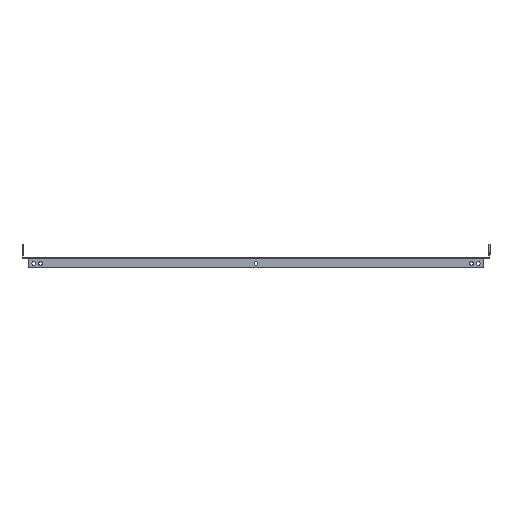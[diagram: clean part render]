
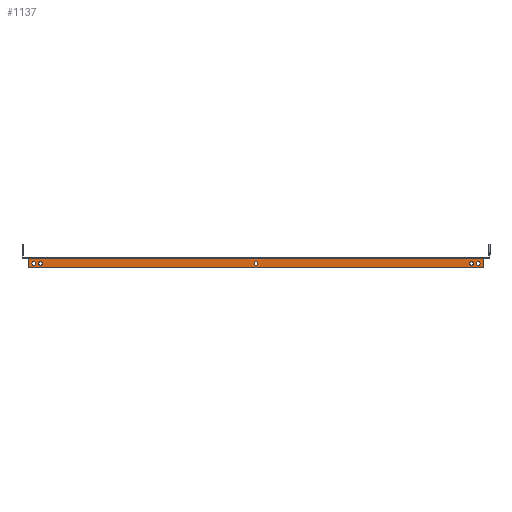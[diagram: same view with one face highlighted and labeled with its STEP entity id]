
A CAD part, left-side view. The second image highlights one B-rep face of the part: STEP entity #1137.
In plain terms, the highlighted planar face has unit normal (-1, 0, 0).
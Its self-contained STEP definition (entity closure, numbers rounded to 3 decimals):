
#34 = ORIENTED_EDGE ( 'NONE', *, *, #3715, .F. ) ;
#35 = ORIENTED_EDGE ( 'NONE', *, *, #1389, .F. ) ;
#40 = ORIENTED_EDGE ( 'NONE', *, *, #1062, .T. ) ;
#51 = DIRECTION ( 'NONE',  ( 0., 0., 1. ) ) ;
#54 = ORIENTED_EDGE ( 'NONE', *, *, #1101, .T. ) ;
#60 = LINE ( 'NONE', #4149, #598 ) ;
#66 = VERTEX_POINT ( 'NONE', #1205 ) ;
#67 = ORIENTED_EDGE ( 'NONE', *, *, #2097, .F. ) ;
#71 = DIRECTION ( 'NONE',  ( -1., 0., 0. ) ) ;
#90 = CARTESIAN_POINT ( 'NONE',  ( -250., 0., -6. ) ) ;
#152 = AXIS2_PLACEMENT_3D ( 'NONE', #686, #2749, #3035 ) ;
#207 = ORIENTED_EDGE ( 'NONE', *, *, #3270, .F. ) ;
#358 = CIRCLE ( 'NONE', #3547, 3.5 ) ;
#408 = EDGE_CURVE ( 'NONE', #2682, #2429, #465, .T. ) ;
#436 = ORIENTED_EDGE ( 'NONE', *, *, #2328, .F. ) ;
#455 = CARTESIAN_POINT ( 'NONE',  ( -250., -412.5, -9.5 ) ) ;
#465 = LINE ( 'NONE', #4178, #4123 ) ;
#499 = EDGE_CURVE ( 'NONE', #2682, #1413, #789, .T. ) ;
#502 = EDGE_LOOP ( 'NONE', ( #35, #814 ) ) ;
#503 = VERTEX_POINT ( 'NONE', #1825 ) ;
#511 = CIRCLE ( 'NONE', #1168, 3.5 ) ;
#555 = EDGE_CURVE ( 'NONE', #4227, #1413, #1217, .T. ) ;
#598 = VECTOR ( 'NONE', #3191, 1000. ) ;
#686 = CARTESIAN_POINT ( 'NONE',  ( -250., -412.5, -9.5 ) ) ;
#689 = VERTEX_POINT ( 'NONE', #3666 ) ;
#700 = ORIENTED_EDGE ( 'NONE', *, *, #499, .T. ) ;
#731 = CARTESIAN_POINT ( 'NONE',  ( -250., -419.5, -17. ) ) ;
#789 = CIRCLE ( 'NONE', #4404, 3. ) ;
#814 = ORIENTED_EDGE ( 'NONE', *, *, #2819, .F. ) ;
#858 = DIRECTION ( 'NONE',  ( 1., 0., 0. ) ) ;
#868 = DIRECTION ( 'NONE',  ( 0., 0., 1. ) ) ;
#883 = FACE_OUTER_BOUND ( 'NONE', #3235, .T. ) ;
#898 = DIRECTION ( 'NONE',  ( -1., 0., 0. ) ) ;
#909 = CARTESIAN_POINT ( 'NONE',  ( -250., 422.5, -0.6 ) ) ;
#933 = CARTESIAN_POINT ( 'NONE',  ( -250., 419.5, -17. ) ) ;
#958 = EDGE_CURVE ( 'NONE', #4227, #503, #3980, .T. ) ;
#1034 = CIRCLE ( 'NONE', #3053, 3.5 ) ;
#1062 = EDGE_CURVE ( 'NONE', #1809, #2429, #3641, .T. ) ;
#1101 = EDGE_CURVE ( 'NONE', #4298, #3244, #358, .T. ) ;
#1121 = DIRECTION ( 'NONE',  ( 0., 0., -1. ) ) ;
#1135 = VERTEX_POINT ( 'NONE', #2560 ) ;
#1137 = ADVANCED_FACE ( 'NONE', ( #3594, #3613, #4317, #1591, #2601, #883 ), #1949, .T. ) ;
#1167 = EDGE_LOOP ( 'NONE', ( #3326, #436 ) ) ;
#1168 = AXIS2_PLACEMENT_3D ( 'NONE', #4369, #2334, #2011 ) ;
#1205 = CARTESIAN_POINT ( 'NONE',  ( -250., -400., -13. ) ) ;
#1217 = LINE ( 'NONE', #2300, #4257 ) ;
#1246 = DIRECTION ( 'NONE',  ( 0., 0., -1. ) ) ;
#1294 = DIRECTION ( 'NONE',  ( 0., 0., 1. ) ) ;
#1389 = EDGE_CURVE ( 'NONE', #3076, #689, #511, .T. ) ;
#1396 = CARTESIAN_POINT ( 'NONE',  ( -250., -400., -9.5 ) ) ;
#1413 = VERTEX_POINT ( 'NONE', #933 ) ;
#1439 = DIRECTION ( 'NONE',  ( -1., 0., 0. ) ) ;
#1470 = AXIS2_PLACEMENT_3D ( 'NONE', #4303, #898, #868 ) ;
#1507 = CARTESIAN_POINT ( 'NONE',  ( -250., -412.5, -6. ) ) ;
#1579 = EDGE_CURVE ( 'NONE', #3904, #66, #3982, .T. ) ;
#1591 = FACE_BOUND ( 'NONE', #2362, .T. ) ;
#1594 = ORIENTED_EDGE ( 'NONE', *, *, #408, .F. ) ;
#1653 = CARTESIAN_POINT ( 'NONE',  ( -250., -422.5, -0.6 ) ) ;
#1701 = CARTESIAN_POINT ( 'NONE',  ( -250., 422.5, 0. ) ) ;
#1731 = DIRECTION ( 'NONE',  ( -1., 0., 0. ) ) ;
#1753 = CIRCLE ( 'NONE', #2906, 3.5 ) ;
#1767 = DIRECTION ( 'NONE',  ( 0., 0., 1. ) ) ;
#1801 = CARTESIAN_POINT ( 'NONE',  ( -250., 419.5, -14. ) ) ;
#1809 = VERTEX_POINT ( 'NONE', #1653 ) ;
#1825 = CARTESIAN_POINT ( 'NONE',  ( -250., -422.5, -14. ) ) ;
#1830 = AXIS2_PLACEMENT_3D ( 'NONE', #2469, #3531, #3806 ) ;
#1949 = PLANE ( 'NONE',  #3616 ) ;
#1958 = CARTESIAN_POINT ( 'NONE',  ( -250., 412.5, -6. ) ) ;
#1970 = VERTEX_POINT ( 'NONE', #3561 ) ;
#1974 = CIRCLE ( 'NONE', #1470, 3.5 ) ;
#2011 = DIRECTION ( 'NONE',  ( 0., 0., 1. ) ) ;
#2097 = EDGE_CURVE ( 'NONE', #1135, #1970, #1034, .T. ) ;
#2109 = CIRCLE ( 'NONE', #152, 3.5 ) ;
#2123 = EDGE_LOOP ( 'NONE', ( #3352, #207 ) ) ;
#2153 = EDGE_CURVE ( 'NONE', #1970, #1135, #1974, .T. ) ;
#2161 = DIRECTION ( 'NONE',  ( 0., 0., 1. ) ) ;
#2174 = VECTOR ( 'NONE', #3661, 1000. ) ;
#2300 = CARTESIAN_POINT ( 'NONE',  ( -250., 422.5, -17. ) ) ;
#2313 = CARTESIAN_POINT ( 'NONE',  ( -250., 400., -9.5 ) ) ;
#2328 = EDGE_CURVE ( 'NONE', #2519, #2391, #2109, .T. ) ;
#2333 = CIRCLE ( 'NONE', #2474, 3.5 ) ;
#2334 = DIRECTION ( 'NONE',  ( -1., 0., 0. ) ) ;
#2362 = EDGE_LOOP ( 'NONE', ( #3595, #67 ) ) ;
#2391 = VERTEX_POINT ( 'NONE', #1507 ) ;
#2410 = EDGE_CURVE ( 'NONE', #2391, #2519, #2333, .T. ) ;
#2429 = VERTEX_POINT ( 'NONE', #3557 ) ;
#2447 = EDGE_CURVE ( 'NONE', #3244, #4298, #2911, .T. ) ;
#2469 = CARTESIAN_POINT ( 'NONE',  ( -250., 0., -9.5 ) ) ;
#2474 = AXIS2_PLACEMENT_3D ( 'NONE', #455, #3168, #4236 ) ;
#2519 = VERTEX_POINT ( 'NONE', #2575 ) ;
#2560 = CARTESIAN_POINT ( 'NONE',  ( -250., 400., -13. ) ) ;
#2566 = DIRECTION ( 'NONE',  ( -1., 0., 0. ) ) ;
#2570 = CARTESIAN_POINT ( 'NONE',  ( -250., 0., -13. ) ) ;
#2575 = CARTESIAN_POINT ( 'NONE',  ( -250., -412.5, -13. ) ) ;
#2601 = FACE_BOUND ( 'NONE', #502, .T. ) ;
#2614 = AXIS2_PLACEMENT_3D ( 'NONE', #3441, #4473, #4229 ) ;
#2682 = VERTEX_POINT ( 'NONE', #3111 ) ;
#2718 = ORIENTED_EDGE ( 'NONE', *, *, #555, .F. ) ;
#2749 = DIRECTION ( 'NONE',  ( -1., 0., 0. ) ) ;
#2803 = DIRECTION ( 'NONE',  ( -1., 0., 0. ) ) ;
#2819 = EDGE_CURVE ( 'NONE', #689, #3076, #3786, .T. ) ;
#2906 = AXIS2_PLACEMENT_3D ( 'NONE', #1396, #1731, #1121 ) ;
#2911 = CIRCLE ( 'NONE', #1830, 3.5 ) ;
#2930 = DIRECTION ( 'NONE',  ( 0., 0., 1. ) ) ;
#2945 = CARTESIAN_POINT ( 'NONE',  ( -250., 0., -9.5 ) ) ;
#2974 = ORIENTED_EDGE ( 'NONE', *, *, #958, .T. ) ;
#2985 = CARTESIAN_POINT ( 'NONE',  ( -250., -400., -6. ) ) ;
#3035 = DIRECTION ( 'NONE',  ( 0., 0., -1. ) ) ;
#3053 = AXIS2_PLACEMENT_3D ( 'NONE', #2313, #2566, #2930 ) ;
#3076 = VERTEX_POINT ( 'NONE', #1958 ) ;
#3083 = EDGE_LOOP ( 'NONE', ( #54, #3469 ) ) ;
#3111 = CARTESIAN_POINT ( 'NONE',  ( -250., 422.5, -14. ) ) ;
#3155 = DIRECTION ( 'NONE',  ( 0., 0., 1. ) ) ;
#3163 = CARTESIAN_POINT ( 'NONE',  ( -250., -419.5, -14. ) ) ;
#3168 = DIRECTION ( 'NONE',  ( -1., 0., 0. ) ) ;
#3174 = CARTESIAN_POINT ( 'NONE',  ( -250., 412.5, -9.5 ) ) ;
#3191 = DIRECTION ( 'NONE',  ( 0., 0., -1. ) ) ;
#3235 = EDGE_LOOP ( 'NONE', ( #2718, #2974, #34, #40, #1594, #700 ) ) ;
#3244 = VERTEX_POINT ( 'NONE', #90 ) ;
#3270 = EDGE_CURVE ( 'NONE', #66, #3904, #1753, .T. ) ;
#3326 = ORIENTED_EDGE ( 'NONE', *, *, #2410, .F. ) ;
#3352 = ORIENTED_EDGE ( 'NONE', *, *, #1579, .F. ) ;
#3369 = DIRECTION ( 'NONE',  ( -1., 0., 0. ) ) ;
#3441 = CARTESIAN_POINT ( 'NONE',  ( -250., -400., -9.5 ) ) ;
#3469 = ORIENTED_EDGE ( 'NONE', *, *, #2447, .T. ) ;
#3531 = DIRECTION ( 'NONE',  ( 1., 0., 0. ) ) ;
#3547 = AXIS2_PLACEMENT_3D ( 'NONE', #2945, #858, #1246 ) ;
#3557 = CARTESIAN_POINT ( 'NONE',  ( -250., 422.5, -0.6 ) ) ;
#3561 = CARTESIAN_POINT ( 'NONE',  ( -250., 400., -6. ) ) ;
#3594 = FACE_BOUND ( 'NONE', #3083, .T. ) ;
#3595 = ORIENTED_EDGE ( 'NONE', *, *, #2153, .F. ) ;
#3613 = FACE_BOUND ( 'NONE', #1167, .T. ) ;
#3616 = AXIS2_PLACEMENT_3D ( 'NONE', #1701, #3369, #1294 ) ;
#3641 = LINE ( 'NONE', #909, #2174 ) ;
#3661 = DIRECTION ( 'NONE',  ( 0., 1., 0. ) ) ;
#3666 = CARTESIAN_POINT ( 'NONE',  ( -250., 412.5, -13. ) ) ;
#3674 = DIRECTION ( 'NONE',  ( 0., 1., 0. ) ) ;
#3689 = AXIS2_PLACEMENT_3D ( 'NONE', #3163, #2803, #1767 ) ;
#3715 = EDGE_CURVE ( 'NONE', #1809, #503, #60, .T. ) ;
#3786 = CIRCLE ( 'NONE', #4075, 3.5 ) ;
#3806 = DIRECTION ( 'NONE',  ( 0., 0., -1. ) ) ;
#3904 = VERTEX_POINT ( 'NONE', #2985 ) ;
#3980 = CIRCLE ( 'NONE', #3689, 3. ) ;
#3982 = CIRCLE ( 'NONE', #2614, 3.5 ) ;
#4075 = AXIS2_PLACEMENT_3D ( 'NONE', #3174, #1439, #3155 ) ;
#4123 = VECTOR ( 'NONE', #51, 1000. ) ;
#4149 = CARTESIAN_POINT ( 'NONE',  ( -250., -422.5, -17. ) ) ;
#4178 = CARTESIAN_POINT ( 'NONE',  ( -250., 422.5, 0. ) ) ;
#4227 = VERTEX_POINT ( 'NONE', #731 ) ;
#4229 = DIRECTION ( 'NONE',  ( 0., 0., -1. ) ) ;
#4236 = DIRECTION ( 'NONE',  ( 0., 0., -1. ) ) ;
#4257 = VECTOR ( 'NONE', #3674, 1000. ) ;
#4298 = VERTEX_POINT ( 'NONE', #2570 ) ;
#4303 = CARTESIAN_POINT ( 'NONE',  ( -250., 400., -9.5 ) ) ;
#4317 = FACE_BOUND ( 'NONE', #2123, .T. ) ;
#4369 = CARTESIAN_POINT ( 'NONE',  ( -250., 412.5, -9.5 ) ) ;
#4404 = AXIS2_PLACEMENT_3D ( 'NONE', #1801, #71, #2161 ) ;
#4473 = DIRECTION ( 'NONE',  ( -1., 0., 0. ) ) ;
